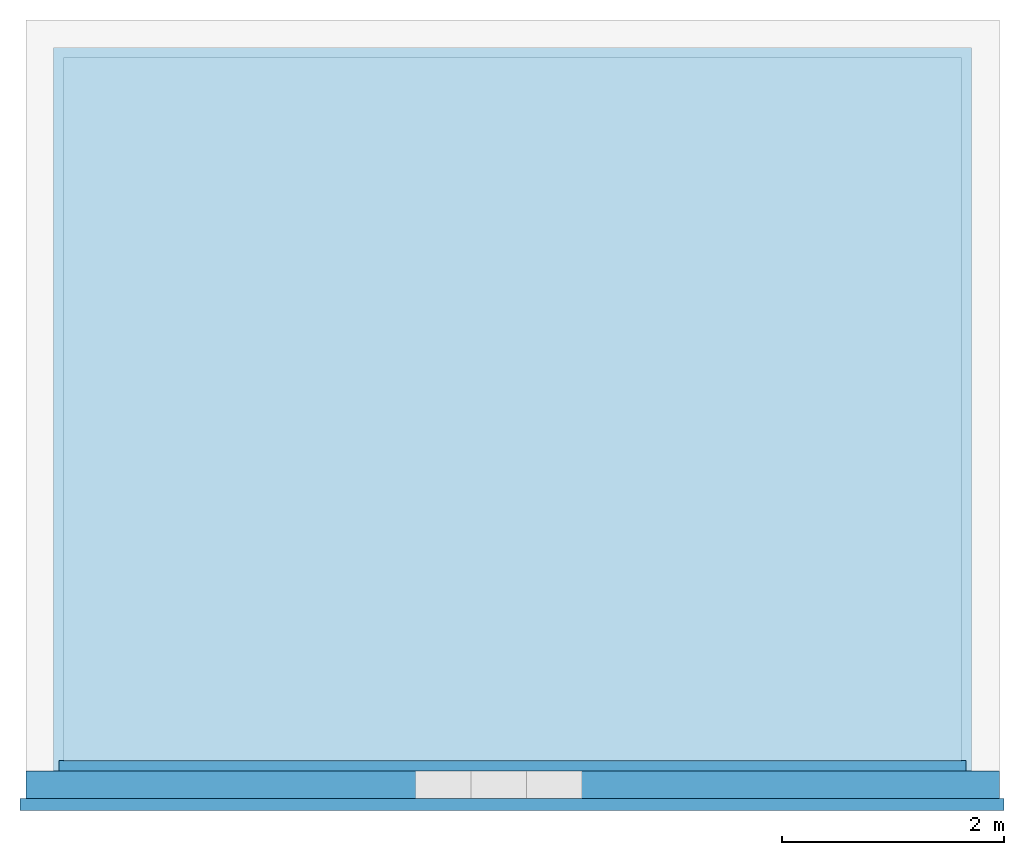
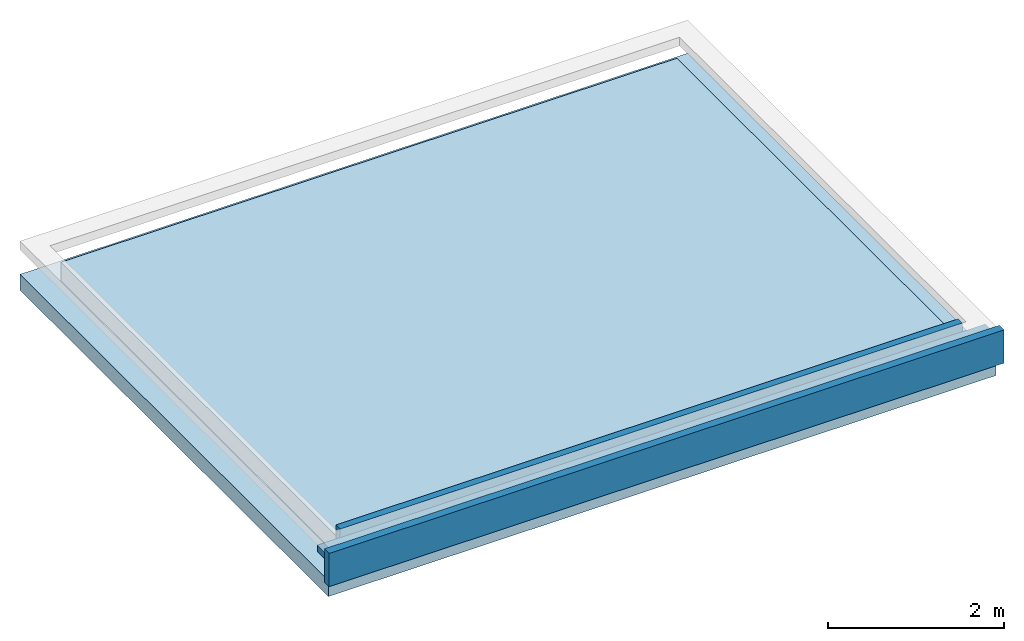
# One storey, incomplete: 3 walls, 2 slabs.
"""IFC4 building model written with IfcOpenShell, lengths in centimetres."""

from ifc_helpers import new_model, entity, si_unit, converted_unit, direction, frame, origin, place, context, subcontext, project, spatial, indexed_curve, outline, extrude, material, constituent, constituent_set, type_object, element, save


model = new_model("IFC4")

# Units and contexts
model_context = context("Model", 3, precision=0.001, world=origin(), true_north=direction((0.0, 1.0)))
body_context = subcontext(model_context, "Body", "Model", "MODEL_VIEW")
ifc_project = project(units=[si_unit("LENGTHUNIT", "METRE", prefix="CENTI"), si_unit("AREAUNIT", "SQUARE_METRE"), si_unit("VOLUMEUNIT", "CUBIC_METRE"), converted_unit("PLANEANGLEUNIT", "DEGREE", entity("IfcPlaneAngleMeasure", 0.017453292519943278), si_unit("PLANEANGLEUNIT", "RADIAN"), dimensions=[0, 0, 0, 0, 0, 0, 0])], contexts=[model_context])

# Site, building, storey
site_placement = place(None, origin())
site = spatial("IfcSite", under=ifc_project, at=site_placement, Name="Default", CompositionType="ELEMENT")
building_placement = place(site_placement, origin())
building = spatial("IfcBuilding", under=site, at=building_placement, CompositionType="ELEMENT")
storey_placement = place(building_placement, frame((0.0, 0.0, 843.0)))
storey = spatial("IfcBuildingStorey", under=building, at=storey_placement, Name="L03__ABOVE Slab", CompositionType="ELEMENT", Elevation=842.9999999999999)

# Slabs
ifc_material_1 = material(Name="_STRUCTURE__Wood CLT")
slab_type_1 = type_object("IfcSlabType", Name="Floors : Floor : flr__STRUCTURE__Wood CLT 22cm__TriqBriq, TW.5", PredefinedType="FLOOR", material=ifc_material_1)
slab_1_placement = place(storey_placement, origin())
element("IfcSlab", 1, at=slab_1_placement, inside=storey, type_object=slab_type_1, material=ifc_material_1, Name="Floors : Floor : flr__STRUCTURE__Wood CLT 22cm__TriqBriq, TW.5", PredefinedType="FLOOR", context=body_context, shape_type="SweptSolid", body=[
    extrude(outline(indexed_curve([(-349.9999999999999, -437.4999999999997), (350.0000000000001, -437.4999999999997), (350.0000000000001, 437.49999999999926), (-350.0000000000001, 437.49999999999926), (-349.9999999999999, -437.4999999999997)], self_intersect=False)), frame((2320.8073258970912, 2150.7022546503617, 13.0), z_axis=(0.0, 0.0, -1.0), x_axis=(0.0, 1.0, 0.0)), (0.0, 0.0, 1.0), 21.99999999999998),
])
ifc_material_2 = material(Name="_GREENERY__Subgrade__Earth")
ifc_constituent_1 = constituent(ifc_material_2, Name="_GREENERY__Subgrade__Earth", fraction=0.39370078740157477)
ifc_material_3 = material(Name="_FLAT ROOF LAYERS__Filtering Fleece__Geotextile__BauderGREEN FV 125", Category="Unassigned")
ifc_constituent_2 = constituent(ifc_material_3, Name="_FLAT ROOF LAYERS__Filtering Fleece__Geotextile__BauderGREEN FV 125", Category="Unassigned", fraction=0.003937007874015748)
ifc_material_4 = material(Name="_GREENERY__Drainage & Storage Course__BauderGREEN DSE 20/1", Category="Unassigned")
ifc_constituent_3 = constituent(ifc_material_4, Name="_GREENERY__Drainage & Storage Course__BauderGREEN DSE 20/1", Category="Unassigned", fraction=0.07874015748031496)
ifc_material_5 = material(Name="_FLAT ROOF LAYERS__WP Protection__Fiber Mat__BauderGREEN FSM 600", Category="Unassigned")
ifc_constituent_4 = constituent(ifc_material_5, Name="_FLAT ROOF LAYERS__WP Protection__Fiber Mat__BauderGREEN FSM 600", Category="Unassigned", fraction=0.015748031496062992)
ifc_material_6 = material(Name="_FLAT ROOF LAYERS__WP Membrane", Category="Unassigned")
ifc_constituent_5 = constituent(ifc_material_6, Name="_FLAT ROOF LAYERS__WP Membrane", Category="Unassigned", fraction=0.015748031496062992)
ifc_constituent_6 = constituent(ifc_material_6, Name="_FLAT ROOF LAYERS__WP Membrane", Category="Unassigned", fraction=0.015748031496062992)
ifc_material_7 = material(Name="_FND LAYERS__Insulation__Foam Glass__Glapor", Category="Unassigned")
ifc_constituent_7 = constituent(ifc_material_7, Name="_FND LAYERS__Insulation__Foam Glass__Glapor", Category="Unassigned", fraction=0.4724409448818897)
ifc_material_8 = material(Name="_FLAT ROOF LAYERS__Vapor Barrier__ProClima", Category="Unassigned")
ifc_constituent_8 = constituent(ifc_material_8, Name="_FLAT ROOF LAYERS__Vapor Barrier__ProClima", Category="Unassigned", fraction=0.003937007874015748)
ifc_constituent_set_1 = constituent_set(constituents=[ifc_constituent_1, ifc_constituent_2, ifc_constituent_3, ifc_constituent_4, ifc_constituent_5, ifc_constituent_6, ifc_constituent_7, ifc_constituent_8], Name="Floor:flr__EXT ENCLOSURE__Vegetation, Foam Glass 25.4cm__TriqBriq, LT.1")
slab_type_2 = type_object("IfcSlabType", Name="Floors : Floor : flr__EXT ENCLOSURE__Vegetation, Foam Glass 25.4cm__TriqBriq, LT.1", PredefinedType="FLOOR", material=ifc_constituent_set_1)
slab_2_placement = place(storey_placement, origin())
element("IfcSlab", 2, at=slab_2_placement, inside=storey, type_object=slab_type_2, material=ifc_constituent_set_1, Name="Floors : Floor : flr__EXT ENCLOSURE__Vegetation, Foam Glass 25.4cm__TriqBriq, LT.1", PredefinedType="FLOOR", context=body_context, shape_type="SweptSolid", body=[
    extrude(outline(indexed_curve([(-316.50000000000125, -403.60079286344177), (316.5000000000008, -403.60079286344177), (316.5000000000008, 403.60079286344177), (-316.50000000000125, 403.60079286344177), (-316.50000000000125, -403.60079286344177)], self_intersect=False)), frame((2320.8073258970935, 2150.3022546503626, 28.399999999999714), z_axis=(0.0, 0.0, 1.0), x_axis=(0.0, -1.0, 0.0)), (0.0, 0.0, 1.0), 10.0),
    extrude(outline(indexed_curve([(-316.50000000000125, -403.6007928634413), (316.5000000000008, -403.60079286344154), (316.50000000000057, 403.60079286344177), (-316.50000000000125, 403.60079286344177), (-316.50000000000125, -403.6007928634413)], self_intersect=False)), frame((2320.8073258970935, 2150.3022546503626, 28.299999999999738), z_axis=(0.0, 0.0, 1.0), x_axis=(0.0, -1.0, 0.0)), (0.0, 0.0, 1.0), 0.09999999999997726),
    extrude(outline(indexed_curve([(-316.50000000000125, -403.60079286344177), (316.5000000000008, -403.60079286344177), (316.50000000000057, 403.6007928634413), (-316.50000000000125, 403.6007928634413), (-316.50000000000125, -403.60079286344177)], self_intersect=False)), frame((2320.807325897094, 2150.3022546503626, 26.29999999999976), z_axis=(0.0, 0.0, 1.0), x_axis=(0.0, -1.0, 0.0)), (0.0, 0.0, 1.0), 1.9999999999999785),
    extrude(outline(indexed_curve([(-316.5000000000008, -403.60079286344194), (316.50000000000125, -403.60079286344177), (316.5000000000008, 403.6007928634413), (-316.5000000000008, 403.6007928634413), (-316.5000000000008, -403.60079286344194)], self_intersect=False)), frame((2320.807325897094, 2150.302254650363, 25.899999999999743), z_axis=(0.0, 0.0, 1.0), x_axis=(0.0, -1.0, 0.0)), (0.0, 0.0, 1.0), 0.40000000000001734),
    extrude(outline(indexed_curve([(-316.50000000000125, -403.6007928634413), (316.5000000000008, -403.60079286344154), (316.50000000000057, 403.60079286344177), (-316.50000000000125, 403.60079286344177), (-316.50000000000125, -403.6007928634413)], self_intersect=False)), frame((2320.8073258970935, 2150.3022546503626, 25.499999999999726), z_axis=(0.0, 0.0, 1.0), x_axis=(0.0, -1.0, 0.0)), (0.0, 0.0, 1.0), 0.40000000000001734),
    extrude(outline(indexed_curve([(-316.50000000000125, -403.60079286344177), (316.5000000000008, -403.60079286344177), (316.50000000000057, 403.6007928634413), (-316.50000000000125, 403.6007928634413), (-316.50000000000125, -403.60079286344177)], self_intersect=False)), frame((2320.807325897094, 2150.3022546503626, 25.099999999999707), z_axis=(0.0, 0.0, 1.0), x_axis=(0.0, -1.0, 0.0)), (0.0, 0.0, 1.0), 0.40000000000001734),
    extrude(outline(indexed_curve([(-316.50000000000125, -403.60079286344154), (316.5000000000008, -403.60079286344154), (316.50000000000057, 403.60079286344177), (-316.50000000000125, 403.60079286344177), (-316.50000000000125, -403.60079286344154)], self_intersect=False)), frame((2320.8073258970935, 2150.3022546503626, 13.09999999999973), z_axis=(0.0, 0.0, 1.0), x_axis=(0.0, -1.0, 0.0)), (0.0, 0.0, 1.0), 11.999999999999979),
    extrude(outline(indexed_curve([(-421.5333333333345, -403.60079286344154), (210.06666666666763, -403.60079286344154), (211.46666666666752, -403.60079286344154), (211.46666666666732, 403.60079286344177), (210.06666666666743, 403.60079286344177), (-421.5333333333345, 403.60079286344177), (-421.5333333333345, -403.60079286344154)], self_intersect=False)), frame((2320.8073258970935, 2045.2689213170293, 13.0), z_axis=(0.0, 0.0, 1.0), x_axis=(0.0, -1.0, 0.0)), (0.0, 0.0, 1.0), 0.09999999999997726),
])

# Walls
ifc_material_9 = material(Name="_FCD FINISH__Spray-cork", Category="Concrete")
ifc_constituent_9 = constituent(ifc_material_9, Name="_FCD FINISH__Spray-cork", Category="Concrete", fraction=0.05660377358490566)
ifc_material_10 = material(Name="Default Wall", Category="Miscellaneous")
ifc_constituent_10 = constituent(ifc_material_10, Name="Layer", Category="Miscellaneous", fraction=0.14150943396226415)
ifc_material_11 = material(Name="_FCD LAYERS__Insulation__Wood-fiber__Steico", Category="Unassigned")
ifc_constituent_11 = constituent(ifc_material_11, Name="_FCD LAYERS__Insulation__Wood-fiber__Steico", Category="Unassigned", fraction=0.8018867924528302)
ifc_constituent_set_2 = constituent_set(constituents=[ifc_constituent_9, ifc_constituent_10, ifc_constituent_11], Name="Basic Wall:wll__EXT ENCLOSURE__Spritzkork, Wood Insulation 10.6cm__TriqBriq, FS.3 3")
wall_type_1 = type_object("IfcWallType", Name="Walls : Basic Wall : wll__EXT ENCLOSURE__Spritzkork, Wood Insulation 10.6cm__TriqBriq, FS.3 3", PredefinedType="STANDARD", material=ifc_constituent_set_2)
wall_1_placement = place(storey_placement, frame((2762.507325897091, 1795.4022546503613, 13.0), z_axis=(0.0, 0.0, 1.0), x_axis=(-1.0, 0.0, 0.0)))
element("IfcWall", 3, at=wall_1_placement, inside=storey, type_object=wall_type_1, material=ifc_constituent_set_2, Name="Walls : Basic Wall : wll__EXT ENCLOSURE__Spritzkork, Wood Insulation 10.6cm__TriqBriq, FS.3 3", PredefinedType="NOTDEFINED", context=body_context, shape_type="SweptSolid", body=[
    extrude(outline(indexed_curve([(-442.24999999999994, -0.7499999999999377), (442.24999999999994, -0.7499999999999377), (442.24999999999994, 0.7500000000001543), (-442.24999999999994, 0.7500000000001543), (-442.24999999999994, -0.7499999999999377)], self_intersect=False)), frame((442.24999999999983, 3.9499999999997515, 0.0)), (0.0, 0.0, 1.0), 46.000000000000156),
    extrude(outline(indexed_curve([(-4.2499999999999, -442.24999999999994), (4.2499999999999, -442.2499999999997), (4.250000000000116, 442.24999999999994), (-4.249999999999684, 442.24999999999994), (-4.2499999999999, -442.24999999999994)], self_intersect=False)), frame((442.24999999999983, -1.0500000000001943, 0.0), z_axis=(0.0, 0.0, 1.0), x_axis=(0.0, 1.0, 0.0)), (0.0, 0.0, 1.0), 46.000000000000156),
    extrude(outline(indexed_curve([(-0.30000000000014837, -442.24999999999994), (0.29999999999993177, -442.24999999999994), (0.30000000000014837, 442.24999999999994), (-0.29999999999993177, 442.24999999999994), (-0.30000000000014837, -442.24999999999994)], self_intersect=False)), frame((442.24999999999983, 5.0, 0.0), z_axis=(0.0, 0.0, 1.0), x_axis=(0.0, -1.0, 0.0)), (0.0, 0.0, 1.0), 46.000000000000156),
])
ifc_constituent_12 = constituent(ifc_material_9, Name="_FCD FINISH__Spray-cork", Category="Concrete", fraction=0.06315789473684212)
ifc_constituent_13 = constituent(ifc_material_6, Name="_FLAT ROOF LAYERS__WP Membrane", Category="Unassigned", fraction=0.04210526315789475)
ifc_constituent_14 = constituent(ifc_material_6, Name="_FLAT ROOF LAYERS__WP Membrane (2)", Category="Unassigned", fraction=0.04210526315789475)
ifc_constituent_15 = constituent(ifc_material_7, Name="_FND LAYERS__Insulation__Foam Glass__Glapor", Category="Unassigned", fraction=0.8421052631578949)
ifc_constituent_16 = constituent(ifc_material_8, Name="_FLAT ROOF LAYERS__Vapor Barrier__ProClima", Category="Unassigned", fraction=0.010526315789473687)
ifc_constituent_set_3 = constituent_set(constituents=[ifc_constituent_12, ifc_constituent_13, ifc_constituent_14, ifc_constituent_15, ifc_constituent_16], Name="Basic Wall:wll__EXT ENCLOSURE__Spritzkork, Foam Glass 9.5cm__TriqBriq, FS.4")
wall_type_2 = type_object("IfcWallType", Name="Walls : Basic Wall : wll__EXT ENCLOSURE__Spritzkork, Foam Glass 9.5cm__TriqBriq, FS.4", PredefinedType="STANDARD", material=ifc_constituent_set_3)
wall_2_placement = place(storey_placement, frame((2728.557325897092, 1830.4522546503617, 13.0), z_axis=(0.0, 0.0, 1.0), x_axis=(-1.0, 0.0, 0.0)))
element("IfcWall", 4, at=wall_2_placement, inside=storey, type_object=wall_type_2, material=ifc_constituent_set_3, Name="Walls : Basic Wall : wll__EXT ENCLOSURE__Spritzkork, Foam Glass 9.5cm__TriqBriq, FS.4", PredefinedType="NOTDEFINED", context=body_context, shape_type="SweptSolid", body=[
    extrude(outline(indexed_curve([(-0.04999999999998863, -407.75000000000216), (0.04999999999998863, -407.75000000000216), (0.04999999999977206, 407.7500000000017), (-0.05000000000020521, 407.7500000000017), (-0.04999999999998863, -407.75000000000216)], self_intersect=False)), frame((407.7500000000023, 4.700000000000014, 0.0), z_axis=(0.0, 0.0, 1.0), x_axis=(0.0, -1.0, 0.0)), (0.0, 0.0, 1.0), 46.000000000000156),
    extrude(outline(indexed_curve([(-407.75000000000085, -2.66666666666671), (-403.6007928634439, -2.66666666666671), (403.6007928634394, -2.6666666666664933), (407.750000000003, -2.6666666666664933), (407.750000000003, 5.333333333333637), (-407.75000000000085, 5.33333333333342), (-407.75000000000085, -2.66666666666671)], self_intersect=False)), frame((407.75000000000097, -0.6833333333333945, 0.0)), (0.0, 0.0, 1.0), 46.000000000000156),
    extrude(outline(indexed_curve([(-17.849999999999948, -407.75000000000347), (28.150000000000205, -407.75000000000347), (28.150000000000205, 407.7500000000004), (-17.849999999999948, 407.7500000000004), (-17.849999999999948, 403.6007928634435), (7.550000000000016, 403.6007928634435), (7.550000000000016, -403.6007928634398), (-17.849999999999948, -403.6007928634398), (-17.849999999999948, -407.75000000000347)], self_intersect=False)), frame((407.7500000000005, -3.350000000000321, 17.849999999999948), z_axis=(0.0, -1.0, 0.0), x_axis=(0.0, 0.0, 1.0)), (0.0, 0.0, 1.0), 0.39999999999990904),
    extrude(outline(indexed_curve([(-17.849999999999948, -407.75000000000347), (28.150000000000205, -407.75000000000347), (28.150000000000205, 407.7500000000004), (-17.849999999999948, 407.7500000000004), (-17.849999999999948, 403.6007928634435), (7.550000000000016, 403.6007928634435), (7.550000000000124, -403.6007928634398), (-17.849999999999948, -403.6007928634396), (-17.849999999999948, -407.75000000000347)], self_intersect=False)), frame((407.7500000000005, -3.7500000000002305, 17.849999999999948), z_axis=(0.0, -1.0, 0.0), x_axis=(0.0, 0.0, 1.0)), (0.0, 0.0, 1.0), 0.39999999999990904),
    extrude(outline(indexed_curve([(-17.849999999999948, -407.75000000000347), (28.150000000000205, -407.75000000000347), (28.150000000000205, 407.7500000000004), (-17.849999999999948, 407.7500000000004), (-17.849999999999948, 403.6007928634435), (7.550000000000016, 403.6007928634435), (7.550000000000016, -403.6007928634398), (-17.849999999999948, -403.6007928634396), (-17.849999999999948, -407.75000000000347)], self_intersect=False)), frame((407.7500000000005, -4.150000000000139, 17.849999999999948), z_axis=(0.0, -1.0, 0.0), x_axis=(0.0, 0.0, 1.0)), (0.0, 0.0, 1.0), 0.6000000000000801),
])
ifc_material_12 = material(Name="_STRUCTURE__Wood Solid")
wall_type_3 = type_object("IfcWallType", Name="Columns : wll_s__DECOUPLING BEAM__Rectangular__wp : Wood", PredefinedType="SOLIDWALL", material=ifc_material_12)
wall_3_placement = place(storey_placement, frame((1883.3073258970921, 1800.7022546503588, 38.0)))
element("IfcWall", 5, at=wall_3_placement, inside=storey, type_object=wall_type_3, material=ifc_material_12, Name="Columns : wll_s__DECOUPLING BEAM__Rectangular__wp : Wood", PredefinedType="SOLIDWALL", context=body_context, shape_type="SweptSolid", body=[
    extrude(outline(indexed_curve([(-12.500000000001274, -437.49999999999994), (12.499999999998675, -437.49999999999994), (12.500000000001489, 437.50000000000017), (-12.499999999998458, 437.50000000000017), (-12.500000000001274, -437.49999999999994)], self_intersect=False)), frame((437.49999999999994, 12.500000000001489, 0.0), z_axis=(0.0, 0.0, 1.0), x_axis=(0.0, -1.0, 0.0)), (0.0, 0.0, 1.0), 9.099999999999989),
])

save(model, "model.ifc")
